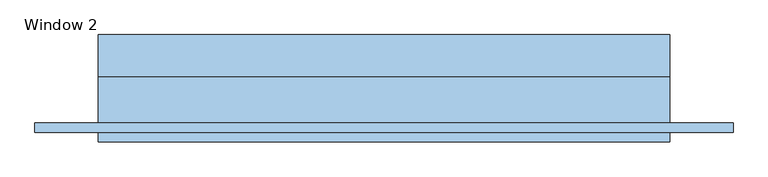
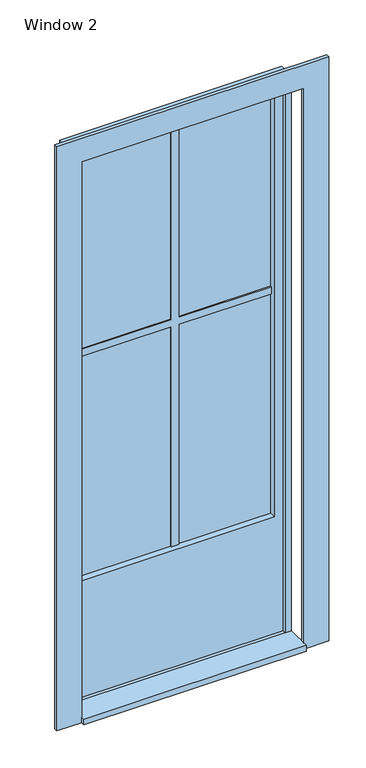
"""IFC4 building model written with IfcOpenShell, lengths in millimetres: window geometry, Window 2 : 900/2400."""

from ifc_helpers import new_model, si_unit, frame, origin, origin_with_axes, place, context, project, spatial, polyline, outline, extrude, source, transform, mapped, element, save


def window_2_1320fec1(model_context):
    return source(origin(), model_context, "Body", "SweptSolid", [
        extrude(outline(polyline([(450.0, -26.9623738), (450.0, -130.0), (-450.0, -130.0), (-450.0, -26.9623738), (450.0, -26.9623738)])), origin_with_axes(), (0.0, 0.0, 1.0), 25.0),
        extrude(outline(polyline([(2375.0, -425.0), (25.0, -425.0), (25.0, 425.0), (2375.0, 425.0), (2375.0, -425.0)]), holes=[polyline([(2340.0, -390.0), (2340.0, 390.0), (525.0, 390.0), (525.0, -390.0), (2340.0, -390.0)])]), frame((0.0, -11.4811869, 0.0), z_axis=(0.0, 1.0, 0.0), x_axis=(0.0, 0.0, 1.0)), (0.0, 0.0, 1.0), 50.5),
        extrude(outline(polyline([(0.0, -450.0), (0.0, 450.0), (2400.0, 450.0), (2400.0, -450.0), (0.0, -450.0)]), holes=[polyline([(25.0, -425.0), (2375.0, -425.0), (2375.0, 425.0), (25.0, 425.0), (25.0, -425.0)])]), frame((0.0, -26.9623738, 0.0), z_axis=(0.0, 1.0, 0.0), x_axis=(0.0, 0.0, 1.0)), (0.0, 0.0, 1.0), 65.9811869),
        extrude(outline(polyline([(2400.0, -450.0), (2400.0, 450.0), (0.0, 450.0), (0.0, 550.0), (2500.0, 550.0), (2500.0, -550.0), (0.0, -550.0), (0.0, -450.0), (2400.0, -450.0)])), frame((0.0, -115.0, 0.0), z_axis=(0.0, 1.0, 0.0), x_axis=(0.0, 0.0, 1.0)), (0.0, 0.0, 1.0), 15.0),
        extrude(outline(polyline([(1497.5, 390.0), (1497.5, 15.0), (2340.0, 15.0), (2340.0, -15.0), (1497.5, -15.0), (1497.5, -390.0), (1467.5, -390.0), (1467.5, -15.0), (525.0, -15.0), (525.0, 15.0), (1467.5, 15.0), (1467.5, 390.0), (1497.5, 390.0)])), frame((0.0, 8.5188131, 0.0), z_axis=(0.0, 1.0, 0.0), x_axis=(0.0, 0.0, 1.0)), (0.0, 0.0, 1.0), 20.0),
        extrude(outline(polyline([(390.0, 15.5188131), (390.0, 13.5188131), (-390.0, 13.5188131), (-390.0, 15.5188131), (390.0, 15.5188131)])), frame((0.0, 0.0, 525.0), z_axis=(0.0, 0.0, 1.0), x_axis=(1.0, 0.0, 0.0)), (0.0, 0.0, 1.0), 1815.0),
    ])


if __name__ == "__main__":
    model = new_model("IFC4")
    model_context = context("Model", 3, world=origin())
    ifc_project = project(units=[si_unit("LENGTHUNIT", "METRE", prefix="MILLI")], contexts=[model_context])
    site = spatial("IfcSite", under=ifc_project)
    building = spatial("IfcBuilding", under=site)
    placement = place(None, origin())
    window_2_shape = window_2_1320fec1(model_context)
    element("IfcWindow", 1, ObjectType="Window 2 : 900/2400", at=placement, inside=building, context=model_context, shape_type="MappedRepresentation", body=[
        mapped(window_2_shape, transform((0.0, 0.0, 0.0), x_axis=(1.0, 0.0, 0.0), y_axis=(0.0, 1.0, 0.0), z_axis=(0.0, 0.0, 1.0))),
    ])
    save(model, "model.ifc")
